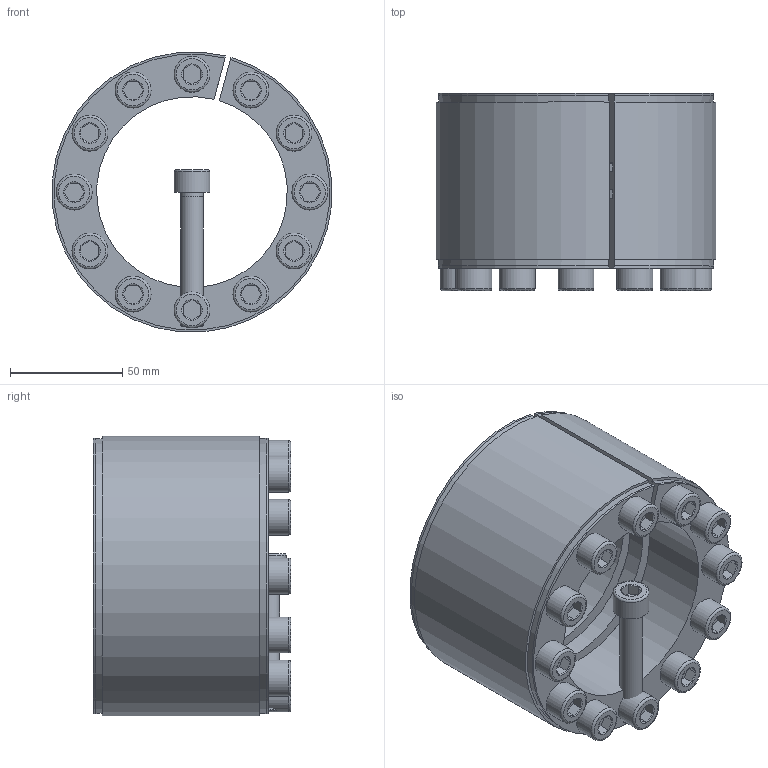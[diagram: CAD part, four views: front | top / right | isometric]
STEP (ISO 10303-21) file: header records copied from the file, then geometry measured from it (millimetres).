
FILE_DESCRIPTION( ( 'Unknown' ), '1' );
FILE_NAME( 'C:/Dokumente und Einstellungen/Sven/Desktop/homepage/cad - homepage/KBS11/KBS 11 - 85 x 125.stp', 'Unknown', ( 'Unknown' ), ( 'Unknown' ), 'XStep 1.0', 'Unknown', ' ' );
FILE_SCHEMA( ( 'automotive_design' ) );
Length unit declared in the file: millimetre
Products named in the file (3): Assem1; KBS 11 - 85 x 125; ISO EN DIN 4762 M10x60
Bounding box: 124.63 x 88 x 124.63 mm (x, y, z)
Volume: 884605.5 mm3; surface area: 256208.4 mm2
Topology: 15 solids, 15 shells, 437 faces, 929 edges, 574 vertices
Faces by surface type: plane 176, cylinder 136, cone 99, torus 26
Full cylindrical faces by diameter (mm): 9 x13, 10 x98, 16 x13
Entity records: 3002 total; most frequent: CARTESIAN_POINT 457, DIRECTION 444, ORIENTED_EDGE 322, AXIS2_PLACEMENT_3D 202, EDGE_LOOP 200, EDGE_CURVE 161, VERTEX_POINT 131, FACE_OUTER_BOUND 123
